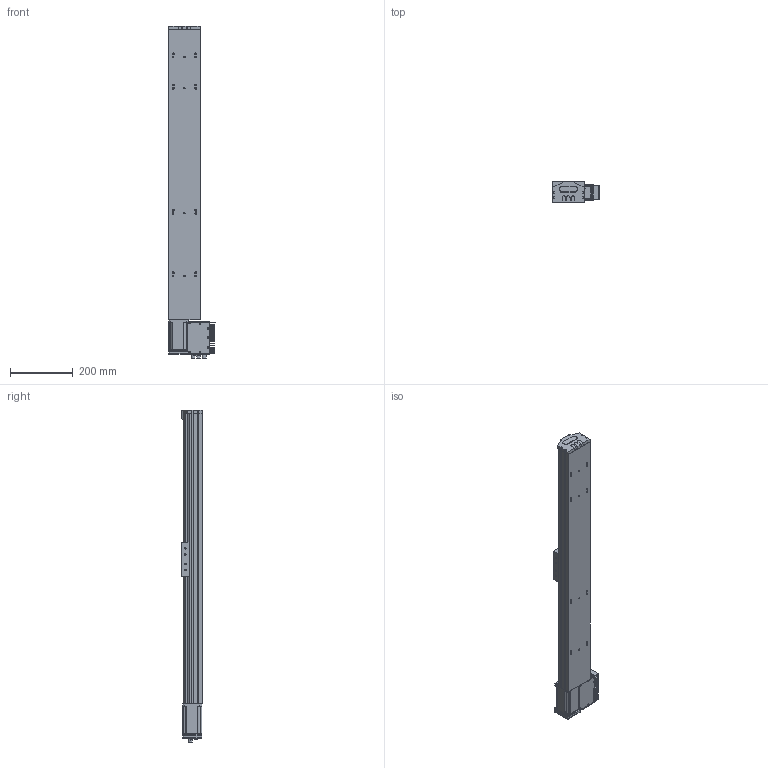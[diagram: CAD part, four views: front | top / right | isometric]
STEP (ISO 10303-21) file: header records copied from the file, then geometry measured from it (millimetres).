
FILE_DESCRIPTION (( 'STEP AP203' ), '1' );
FILE_NAME ('S 10 TSH MD S700.STEP', '2012-08-29T13:19:20', ( 'Conseil Régional Haute-Normandie' ), ( 'Conseil Régional Haute-Normandie' ), 'SwSTEP 2.0', 'SolidWorks 2010', '' );
FILE_SCHEMA (( 'CONFIG_CONTROL_DESIGN' ));
Length unit declared in the file: millimetre
Products named in the file (23): Sub D 9cts 90_X2_00B_X0__3; embout_modifié; S 10 TSH MD S700; axe930_Default; palette tbn2; piece_plastique remplieTSH_Default; T_X2_00F4_X0_le lat_X2_00E9_X0_rale_5; remplir_Default; Pièce2_Default; Assem1_7; T_X2_00F4_X0_le contre le moteur_5; BU41 Carte Alimentation P05_3; Colonnette_3; BU45 Carte d''axe A11_5; Moteur 60BLDC90A_3; Couvercle_3; T_X2_00F4_X0_le fond_3; Connecteur rond D10 3cts_5; Connecteur rond D12 4cts_5; Radiateur profil_X2_00E9_X0_ 100x25_3; Colonnette ronde_3; T_X2_00F4_X0_le Arri_X2_00E8_X0_re_5; Vis TF 3 torkx_1_1
Assembly tree (47 placements, depth 3):
  S 10 TSH MD S700
    Assem1_7
      Vis TF 3 torkx_1_1  x21
      T_X2_00F4_X0_le lat_X2_00E9_X0_rale_5  x2
      Moteur 60BLDC90A_3
      Connecteur rond D10 3cts_5  x2
      BU41 Carte Alimentation P05_3
      Couvercle_3
      Radiateur profil_X2_00E9_X0_ 100x25_3
      T_X2_00F4_X0_le fond_3
      Connecteur rond D12 4cts_5
      T_X2_00F4_X0_le Arri_X2_00E8_X0_re_5
      T_X2_00F4_X0_le contre le moteur_5
      Sub D 9cts 90_X2_00B_X0__3
      BU45 Carte d''axe A11_5
      Colonnette_3  x2
      Colonnette ronde_3
    axe930_Default
    palette tbn2
    piece_plastique remplieTSH_Default
      Pièce2_Default
      remplir_Default  x3
      embout_modifié
Bounding box: 148.26 x 66.75 x 1061.6 mm (x, y, z)
Volume: 5510839 mm3; surface area: 682526.6 mm2
Topology: 45 solids, 45 shells, 1726 faces, 4403 edges, 2866 vertices
Faces by surface type: plane 799, cylinder 774, cone 150, torus 3
Entity records: 36182 total; most frequent: CARTESIAN_POINT 6123, DIRECTION 5908, ORIENTED_EDGE 5382, EDGE_CURVE 2691, AXIS2_PLACEMENT_3D 2164, VERTEX_POINT 1766, LINE 1580, VECTOR 1580
